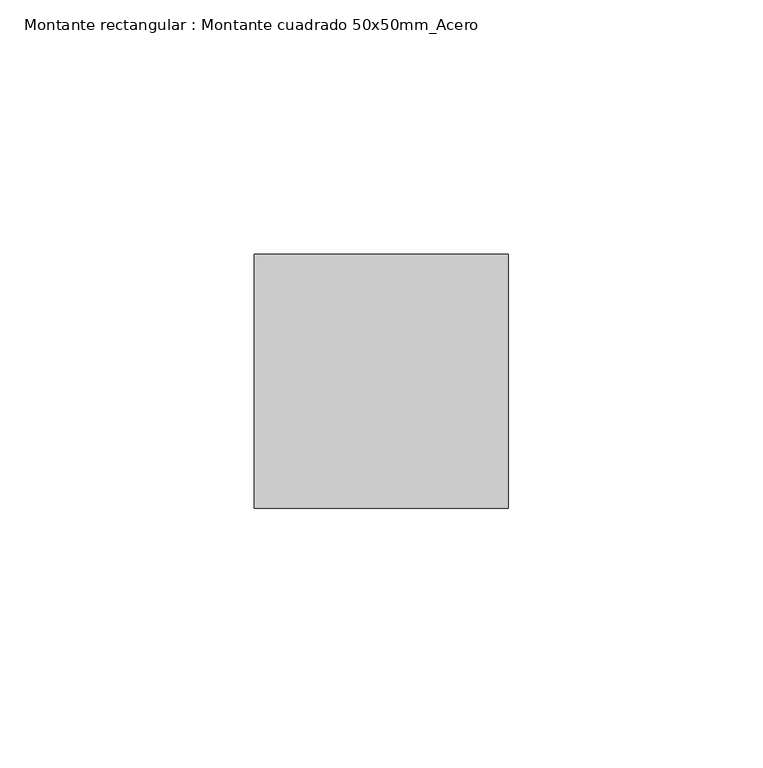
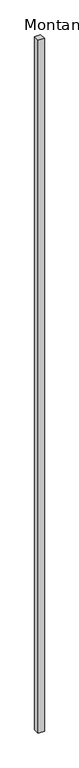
"""IFC4 building model written with IfcOpenShell, lengths in millimetres: member geometry, Montante rectangular : Montante cuadrado 50x50mm_Acero."""

from ifc_helpers import new_model, si_unit, frame, origin, place, context, project, spatial, polyline, outline, extrude, source, transform, mapped, element, save


def montante_rectangular_montante_cuadrado_50x50mm_acero_fdfba807(model_context):
    return source(origin(), model_context, "Body", "SweptSolid", [
        extrude(outline(polyline([(-50.0, 0.0), (-50.0, 50.0), (0.0, 50.0), (0.0, 0.0), (-50.0, 0.0)])), frame((0.0, 0.0, -6014.5534311), z_axis=(0.0, 0.0, 1.0), x_axis=(1.0, 0.0, 0.0)), (0.0, 0.0, 1.0), 6014.5534311),
    ])


if __name__ == "__main__":
    model = new_model("IFC4")
    model_context = context("Model", 3, world=origin())
    ifc_project = project(units=[si_unit("LENGTHUNIT", "METRE", prefix="MILLI")], contexts=[model_context])
    site = spatial("IfcSite", under=ifc_project)
    building = spatial("IfcBuilding", under=site)
    placement = place(None, origin())
    montante_rectangular_montante_cuadrado_50x50mm_acero_shape = montante_rectangular_montante_cuadrado_50x50mm_acero_fdfba807(model_context)
    element("IfcMember", 1, ObjectType="Montante rectangular : Montante cuadrado 50x50mm_Acero", at=placement, inside=building, context=model_context, shape_type="MappedRepresentation", body=[
        mapped(montante_rectangular_montante_cuadrado_50x50mm_acero_shape, transform((0.0, 0.0, 0.0), x_axis=(1.0, 0.0, 0.0), y_axis=(0.0, 1.0, 0.0), z_axis=(0.0, 0.0, 1.0))),
    ])
    save(model, "model.ifc")
